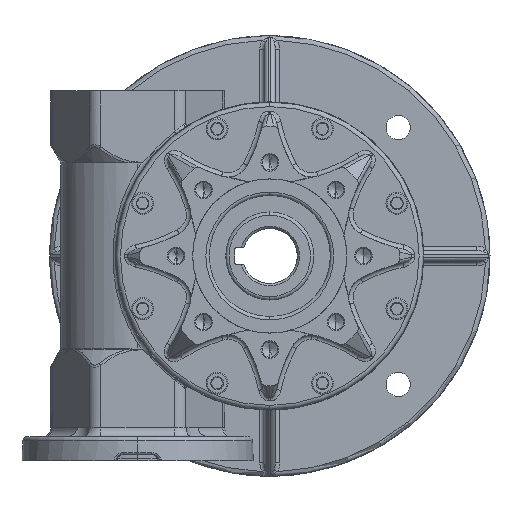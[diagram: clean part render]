
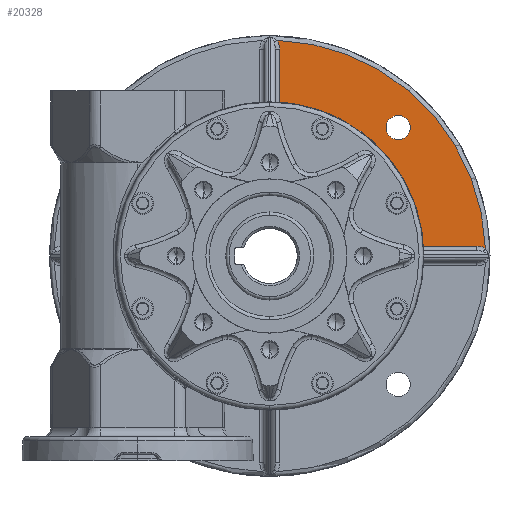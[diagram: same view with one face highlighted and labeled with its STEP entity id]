
A CAD part, left-side view. The second image highlights one B-rep face of the part: STEP entity #20328.
In plain terms, the highlighted planar face has unit normal (-1, 0, 0) as drawn and (0, 0, -1) by its records, which use the part's own axes.
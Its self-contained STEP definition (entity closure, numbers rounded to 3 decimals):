
#19470 = EDGE_CURVE ( 'NONE', #54346, #19885, #60215, .T. ) ;
#19857 = ORIENTED_EDGE ( 'NONE', *, *, #20647, .T. ) ;
#19881 = EDGE_LOOP ( 'NONE', ( #59552, #20402, #20960, #20405, #19857, #19883 ) ) ;
#19883 = ORIENTED_EDGE ( 'NONE', *, *, #65271, .T. ) ;
#19885 = VERTEX_POINT ( 'NONE', #60181 ) ;
#20328 = ADVANCED_FACE ( 'NONE', ( #60242, #60239 ), #60268, .F. ) ;
#20372 = ORIENTED_EDGE ( 'NONE', *, *, #54104, .T. ) ;
#20402 = ORIENTED_EDGE ( 'NONE', *, *, #20410, .T. ) ;
#20405 = ORIENTED_EDGE ( 'NONE', *, *, #20788, .T. ) ;
#20410 = EDGE_CURVE ( 'NONE', #42530, #54346, #60305, .T. ) ;
#20422 = ORIENTED_EDGE ( 'NONE', *, *, #99197, .T. ) ;
#20647 = EDGE_CURVE ( 'NONE', #59591, #59829, #60451, .T. ) ;
#20788 = EDGE_CURVE ( 'NONE', #19885, #59591, #60493, .T. ) ;
#20960 = ORIENTED_EDGE ( 'NONE', *, *, #19470, .T. ) ;
#42530 = VERTEX_POINT ( 'NONE', #88505 ) ;
#42586 = VERTEX_POINT ( 'NONE', #88556 ) ;
#42862 = EDGE_CURVE ( 'NONE', #42530, #42586, #88945, .T. ) ;
#54104 = EDGE_CURVE ( 'NONE', #99113, #99096, #89446, .T. ) ;
#54346 = VERTEX_POINT ( 'NONE', #89425 ) ;
#59552 = ORIENTED_EDGE ( 'NONE', *, *, #42862, .F. ) ;
#59591 = VERTEX_POINT ( 'NONE', #89804 ) ;
#59829 = VERTEX_POINT ( 'NONE', #89802 ) ;
#60181 = CARTESIAN_POINT ( 'NONE',  ( -64.175, -4.5, -11. ) ) ;
#60207 = DIRECTION ( 'NONE',  ( 1., 0., 0. ) ) ;
#60208 = VECTOR ( 'NONE', #60207, 1000. ) ;
#60211 = DIRECTION ( 'NONE',  ( 0., 0., 1. ) ) ;
#60215 = LINE ( 'NONE', #60220, #60208 ) ;
#60220 = CARTESIAN_POINT ( 'NONE',  ( 0., -4.5, -11. ) ) ;
#60239 = FACE_OUTER_BOUND ( 'NONE', #19881, .T. ) ;
#60242 = FACE_BOUND ( 'NONE', #62081, .T. ) ;
#60243 = CARTESIAN_POINT ( 'NONE',  ( 0., 98., -11. ) ) ;
#60268 = PLANE ( 'NONE',  #60326 ) ;
#60286 = CARTESIAN_POINT ( 'NONE',  ( -93.988, -4.5, -11. ) ) ;
#60288 = CARTESIAN_POINT ( 'NONE',  ( -95.486, -4.5, -11. ) ) ;
#60290 = CARTESIAN_POINT ( 'NONE',  ( -96.873, -4.103, -11. ) ) ;
#60292 = CARTESIAN_POINT ( 'NONE',  ( -97.942, -3.369, -11. ) ) ;
#60305 =( BOUNDED_CURVE ( )  B_SPLINE_CURVE ( 3, ( #60292, #60290, #60288, #60286 ),
 .UNSPECIFIED., .F., .T. ) 
 B_SPLINE_CURVE_WITH_KNOTS ( ( 4, 4 ),
 ( 3.936, 4.712 ),
 .UNSPECIFIED. ) 
 CURVE ( )  GEOMETRIC_REPRESENTATION_ITEM ( )  RATIONAL_B_SPLINE_CURVE ( ( 1., 0.95, 0.95, 1. ) ) 
 REPRESENTATION_ITEM ( '' )  );
#60326 = AXIS2_PLACEMENT_3D ( 'NONE', #60243, #60211, #60331 ) ;
#60331 = DIRECTION ( 'NONE',  ( 1., 0., 0. ) ) ;
#60432 = DIRECTION ( 'NONE',  ( 0., -1., 0. ) ) ;
#60433 = VECTOR ( 'NONE', #60432, 1000. ) ;
#60444 = CARTESIAN_POINT ( 'NONE',  ( -4.5, -96.03, -11. ) ) ;
#60451 = LINE ( 'NONE', #60444, #60433 ) ;
#60488 = DIRECTION ( 'NONE',  ( 1., 0., 0. ) ) ;
#60489 = DIRECTION ( 'NONE',  ( 0., 0., 1. ) ) ;
#60490 = CARTESIAN_POINT ( 'NONE',  ( 0., 0., -11. ) ) ;
#60491 = AXIS2_PLACEMENT_3D ( 'NONE', #60490, #60489, #60488 ) ;
#60493 = CIRCLE ( 'NONE', #60491, 64.332 ) ;
#62081 = EDGE_LOOP ( 'NONE', ( #20372, #20422 ) ) ;
#65271 = EDGE_CURVE ( 'NONE', #59829, #42586, #90035, .T. ) ;
#67843 = CARTESIAN_POINT ( 'NONE',  ( -63.836, -58.336, -11. ) ) ;
#68045 = CARTESIAN_POINT ( 'NONE',  ( -52.836, -58.336, -11. ) ) ;
#73001 = DIRECTION ( 'NONE',  ( 1., 0., 0. ) ) ;
#73002 = DIRECTION ( 'NONE',  ( 0., 0., 1. ) ) ;
#73003 = CARTESIAN_POINT ( 'NONE',  ( -58.336, -58.336, -11. ) ) ;
#73011 = AXIS2_PLACEMENT_3D ( 'NONE', #73003, #73002, #73001 ) ;
#73027 = CIRCLE ( 'NONE', #73011, 5.5 ) ;
#88505 = CARTESIAN_POINT ( 'NONE',  ( -97.942, -3.369, -11. ) ) ;
#88556 = CARTESIAN_POINT ( 'NONE',  ( -3.369, -97.942, -11. ) ) ;
#88945 = CIRCLE ( 'NONE', #88950, 98. ) ;
#88950 = AXIS2_PLACEMENT_3D ( 'NONE', #88969, #89001, #89000 ) ;
#88969 = CARTESIAN_POINT ( 'NONE',  ( 0., 0., -11. ) ) ;
#89000 = DIRECTION ( 'NONE',  ( 1., 0., 0. ) ) ;
#89001 = DIRECTION ( 'NONE',  ( 0., 0., 1. ) ) ;
#89425 = CARTESIAN_POINT ( 'NONE',  ( -93.988, -4.5, -11. ) ) ;
#89446 = CIRCLE ( 'NONE', #89510, 5.5 ) ;
#89507 = DIRECTION ( 'NONE',  ( 1., 0., 0. ) ) ;
#89508 = DIRECTION ( 'NONE',  ( 0., 0., 1. ) ) ;
#89509 = CARTESIAN_POINT ( 'NONE',  ( -58.336, -58.336, -11. ) ) ;
#89510 = AXIS2_PLACEMENT_3D ( 'NONE', #89509, #89508, #89507 ) ;
#89802 = CARTESIAN_POINT ( 'NONE',  ( -4.5, -93.988, -11. ) ) ;
#89804 = CARTESIAN_POINT ( 'NONE',  ( -4.5, -64.175, -11. ) ) ;
#90028 = CARTESIAN_POINT ( 'NONE',  ( -3.369, -97.942, -11. ) ) ;
#90029 = CARTESIAN_POINT ( 'NONE',  ( -4.103, -96.873, -11. ) ) ;
#90030 = CARTESIAN_POINT ( 'NONE',  ( -4.5, -95.486, -11. ) ) ;
#90031 = CARTESIAN_POINT ( 'NONE',  ( -4.5, -93.988, -11. ) ) ;
#90035 =( BOUNDED_CURVE ( )  B_SPLINE_CURVE ( 3, ( #90031, #90030, #90029, #90028 ),
 .UNSPECIFIED., .F., .T. ) 
 B_SPLINE_CURVE_WITH_KNOTS ( ( 4, 4 ),
 ( 4.712, 5.488 ),
 .UNSPECIFIED. ) 
 CURVE ( )  GEOMETRIC_REPRESENTATION_ITEM ( )  RATIONAL_B_SPLINE_CURVE ( ( 1., 0.95, 0.95, 1. ) ) 
 REPRESENTATION_ITEM ( '' )  );
#99096 = VERTEX_POINT ( 'NONE', #67843 ) ;
#99113 = VERTEX_POINT ( 'NONE', #68045 ) ;
#99197 = EDGE_CURVE ( 'NONE', #99096, #99113, #73027, .T. ) ;
